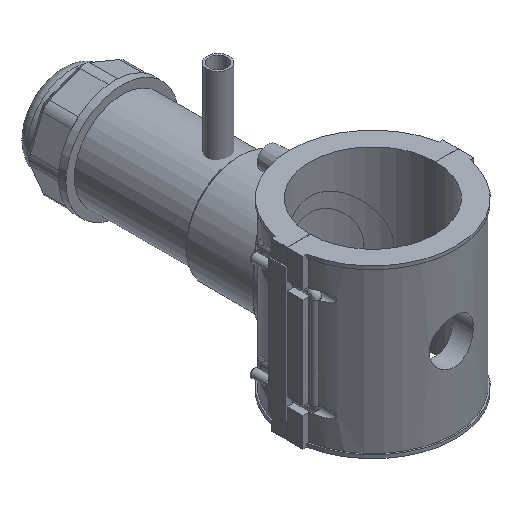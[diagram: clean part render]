
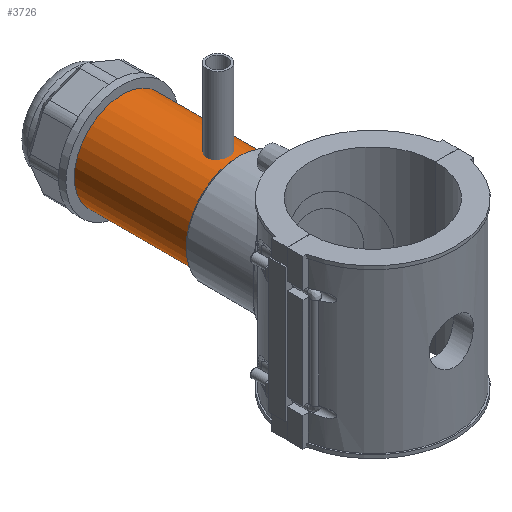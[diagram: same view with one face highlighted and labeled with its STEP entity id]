
A CAD part, isometric view. The second image highlights one B-rep face of the part: STEP entity #3726.
In plain terms, the highlighted cylindrical face has radius 33.928 mm (diameter 67.856 mm), a full revolution.
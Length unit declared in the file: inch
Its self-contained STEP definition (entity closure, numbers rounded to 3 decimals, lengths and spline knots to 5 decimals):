
#317=CIRCLE('',#4055,1.33574);
#318=CIRCLE('',#4056,1.33574);
#333=CIRCLE('',#4087,1.33574);
#334=CIRCLE('',#4088,1.33574);
#548=FACE_OUTER_BOUND('',#774,.T.);
#774=EDGE_LOOP('',(#3440,#3441,#3442,#3443,#3444,#3445));
#1100=LINE('',#7836,#1420);
#1420=VECTOR('',#5091,1.33574);
#1818=VERTEX_POINT('',#7770);
#1819=VERTEX_POINT('',#7771);
#1835=VERTEX_POINT('',#7832);
#1836=VERTEX_POINT('',#7833);
#2345=EDGE_CURVE('',#1818,#1819,#317,.T.);
#2346=EDGE_CURVE('',#1819,#1818,#318,.T.);
#2374=EDGE_CURVE('',#1835,#1836,#333,.T.);
#2375=EDGE_CURVE('',#1836,#1835,#334,.T.);
#2376=EDGE_CURVE('',#1836,#1819,#1100,.T.);
#3440=ORIENTED_EDGE('',*,*,#2374,.F.);
#3441=ORIENTED_EDGE('',*,*,#2375,.F.);
#3442=ORIENTED_EDGE('',*,*,#2376,.T.);
#3443=ORIENTED_EDGE('',*,*,#2346,.T.);
#3444=ORIENTED_EDGE('',*,*,#2345,.T.);
#3445=ORIENTED_EDGE('',*,*,#2376,.F.);
#3525=CYLINDRICAL_SURFACE('',#4086,1.33574);
#3726=ADVANCED_FACE('',(#548),#3525,.T.);
#4055=AXIS2_PLACEMENT_3D('',#7772,#5010,#5011);
#4056=AXIS2_PLACEMENT_3D('',#7773,#5012,#5013);
#4086=AXIS2_PLACEMENT_3D('',#7831,#5085,#5086);
#4087=AXIS2_PLACEMENT_3D('',#7834,#5087,#5088);
#4088=AXIS2_PLACEMENT_3D('',#7835,#5089,#5090);
#5010=DIRECTION('center_axis',(0.,1.,0.));
#5011=DIRECTION('ref_axis',(1.,0.,0.));
#5012=DIRECTION('center_axis',(0.,1.,0.));
#5013=DIRECTION('ref_axis',(1.,0.,0.));
#5085=DIRECTION('center_axis',(0.,1.,0.));
#5086=DIRECTION('ref_axis',(0.,0.,1.));
#5087=DIRECTION('center_axis',(0.,1.,0.));
#5088=DIRECTION('ref_axis',(1.,0.,0.));
#5089=DIRECTION('center_axis',(0.,1.,0.));
#5090=DIRECTION('ref_axis',(1.,0.,0.));
#5091=DIRECTION('',(0.,-1.,0.));
#7770=CARTESIAN_POINT('',(0.,3.77014,1.33574));
#7771=CARTESIAN_POINT('',(0.,3.77014,-1.33574));
#7772=CARTESIAN_POINT('Origin',(0.,3.77014,0.));
#7773=CARTESIAN_POINT('Origin',(0.,3.77014,0.));
#7831=CARTESIAN_POINT('Origin',(0.,5.37185,0.));
#7832=CARTESIAN_POINT('',(0.,6.97356,1.33574));
#7833=CARTESIAN_POINT('',(0.,6.97356,-1.33574));
#7834=CARTESIAN_POINT('Origin',(0.,6.97356,0.));
#7835=CARTESIAN_POINT('Origin',(0.,6.97356,0.));
#7836=CARTESIAN_POINT('',(0.,5.37185,-1.33574));
